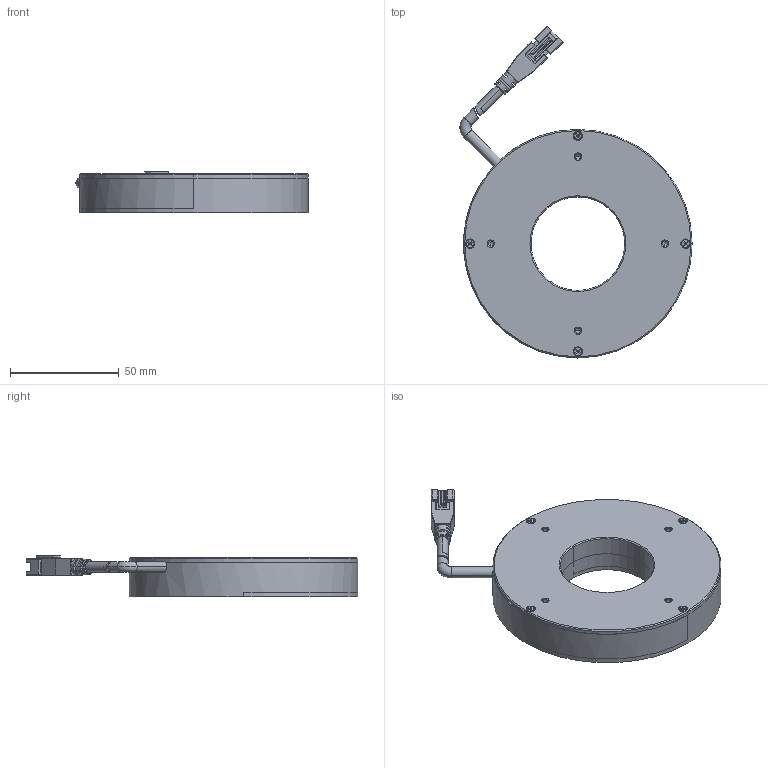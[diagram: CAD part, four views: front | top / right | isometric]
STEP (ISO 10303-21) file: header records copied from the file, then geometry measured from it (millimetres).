
FILE_DESCRIPTION((''),'2;1');
FILE_NAME('MV-LRDS-105-90-X_ASM','2023-09-15T14:01:13',('qiaoxuan5'),(''),'CREO PARAMETRIC BY PTC INC, 2020044','CREO PARAMETRIC BY PTC INC, 2020044','');
FILE_SCHEMA(('CONFIG_CONTROL_DESIGN','SHAPE_APPEARANCE_LAYERS_GROUPS'));
Length unit declared in the file: millimetre
Products named in the file (1): MV-LRDS-105-90-X_ASM
Bounding box: 106.7 x 152.49 x 19.2 mm (x, y, z)
Volume: 83738.6 mm3; surface area: 55859.8 mm2
Topology: 2 solids, 8 shells, 580 faces, 1514 edges, 954 vertices
Faces by surface type: plane 290, cylinder 196, cone 58, torus 18, sphere 8, bspline 8, extrusion 2
Entity records: 19488 total; most frequent: CARTESIAN_POINT 4194, DIRECTION 3074, ORIENTED_EDGE 2974, EDGE_CURVE 1490, AXIS2_PLACEMENT_3D 1094, VERTEX_POINT 954, VECTOR 886, LINE 884
